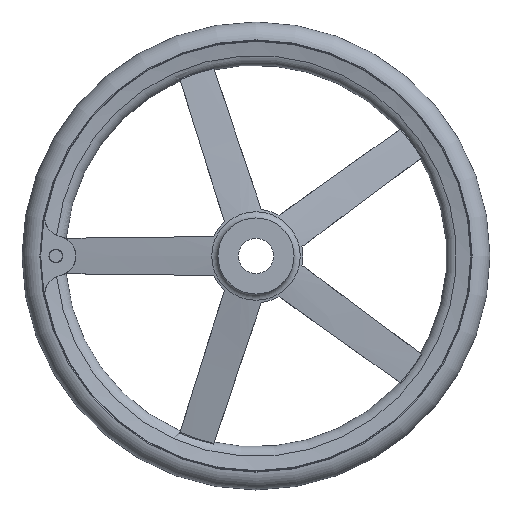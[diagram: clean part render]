
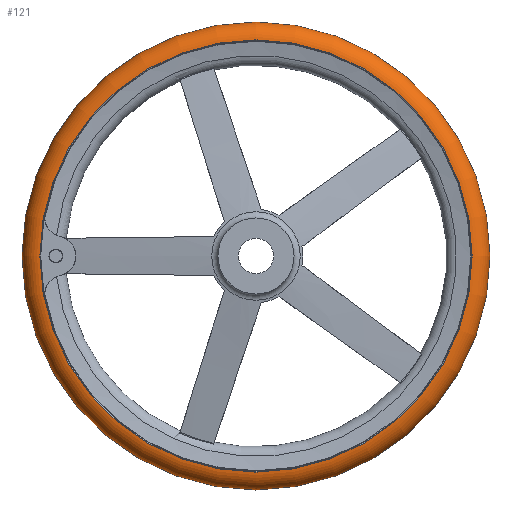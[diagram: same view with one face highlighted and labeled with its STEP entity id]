
A CAD part, left-side view. The second image highlights one B-rep face of the part: STEP entity #121.
In plain terms, the highlighted toroidal (fillet/blend) face has major radius 183.986 mm and minor radius 16.015 mm.
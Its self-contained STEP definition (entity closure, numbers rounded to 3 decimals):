
#121 = ADVANCED_FACE( '', ( #254, #255, #256 ), #257, .T. );
#254 = FACE_BOUND( '', #441, .T. );
#255 = FACE_OUTER_BOUND( '', #442, .T. );
#256 = FACE_OUTER_BOUND( '', #443, .T. );
#257 = TOROIDAL_SURFACE( '', #444, 183.986, 16.014 );
#441 = VERTEX_LOOP( '', #859 );
#442 = EDGE_LOOP( '', ( #860 ) );
#443 = EDGE_LOOP( '', ( #861 ) );
#444 = AXIS2_PLACEMENT_3D( '', #862, #863, #864 );
#859 = VERTEX_POINT( '', #1103 );
#860 = ORIENTED_EDGE( '', *, *, #1104, .T. );
#861 = ORIENTED_EDGE( '', *, *, #1011, .F. );
#862 = CARTESIAN_POINT( '', ( 47., 0., 0. ) );
#863 = DIRECTION( '', ( 1., 0., 0. ) );
#864 = DIRECTION( '', ( 0., 1., 0. ) );
#1011 = EDGE_CURVE( '', #1210, #1210, #1211, .T. );
#1103 = CARTESIAN_POINT( '', ( 47., 200., 0. ) );
#1104 = EDGE_CURVE( '', #1357, #1357, #1358, .T. );
#1210 = VERTEX_POINT( '', #1758 );
#1211 = CIRCLE( '', #1759, 184.667 );
#1357 = VERTEX_POINT( '', #2295 );
#1358 = CIRCLE( '', #2296, 184.667 );
#1758 = CARTESIAN_POINT( '', ( 63., 184.667, 0. ) );
#1759 = AXIS2_PLACEMENT_3D( '', #2379, #2380, #2381 );
#2295 = CARTESIAN_POINT( '', ( 31., 184.667, 0. ) );
#2296 = AXIS2_PLACEMENT_3D( '', #2497, #2498, #2499 );
#2379 = CARTESIAN_POINT( '', ( 63., 0., 0. ) );
#2380 = DIRECTION( '', ( 1., 0., 0. ) );
#2381 = DIRECTION( '', ( 0., 1., 0. ) );
#2497 = CARTESIAN_POINT( '', ( 31., 0., 0. ) );
#2498 = DIRECTION( '', ( 1., 0., 0. ) );
#2499 = DIRECTION( '', ( 0., 1., 0. ) );
